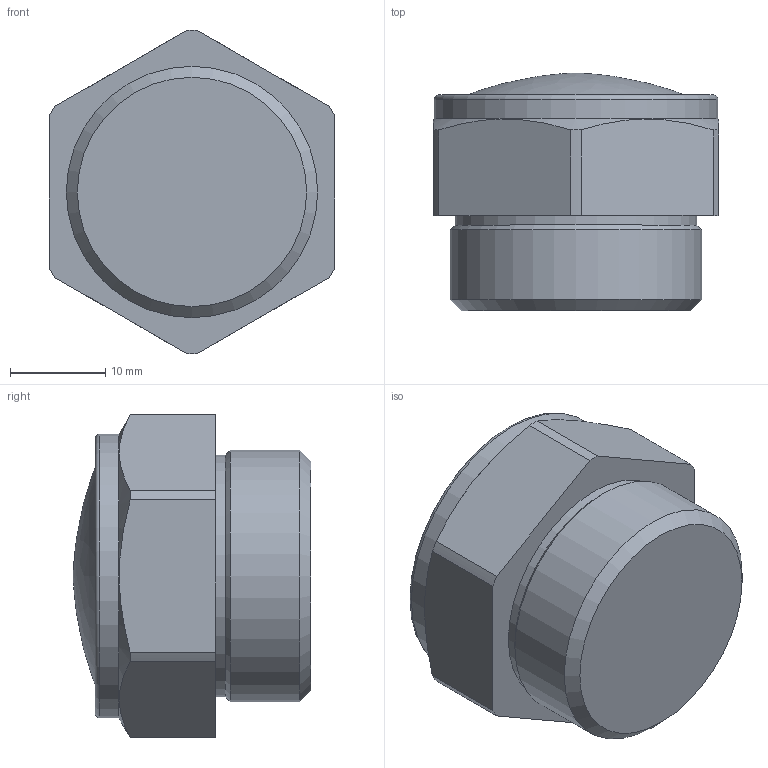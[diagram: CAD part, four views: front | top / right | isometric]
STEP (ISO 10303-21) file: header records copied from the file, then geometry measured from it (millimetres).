
FILE_DESCRIPTION( ( 'STEP AP214' ), '1' );
FILE_NAME( 'p:/temp/worker_5/temp/exporttempdir_1124_679_sdmxe/format_0/W0970530056.stp', '2021-12-09T08:49:17', ( 'License CC BY-ND 4.0' ), ( 'CADENAS' ), ' ', 'PARTsolutions', ' ' );
FILE_SCHEMA( ( 'AUTOMOTIVE_DESIGN { 1 0 10303 214 1 1 1 1 }' ) );
Length unit declared in the file: millimetre
Products named in the file (1): _W0970530056
Bounding box: 30 x 25 x 34 mm (x, y, z)
Volume: 15490 mm3; surface area: 3626.7 mm2
Topology: 1 solids, 1 shells, 24 faces, 56 edges, 36 vertices
Faces by surface type: plane 10, cylinder 9, cone 3, bspline 1, torus 1
Full cylindrical faces by diameter (mm): 25.4 x1, 26.441 x1, 29.843 x1
Entity records: 925 total; most frequent: CARTESIAN_POINT 203, DIRECTION 110, ORIENTED_EDGE 92, AXIS2_PLACEMENT_3D 46, EDGE_CURVE 46, VERTEX_POINT 35, EDGE_LOOP 34, FACE_OUTER_BOUND 28
